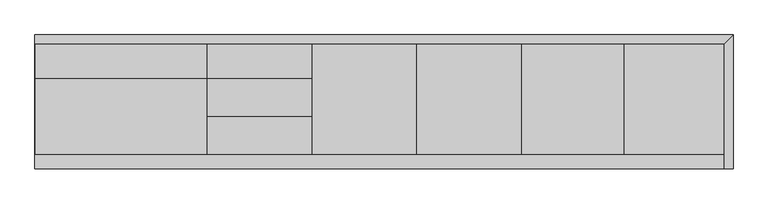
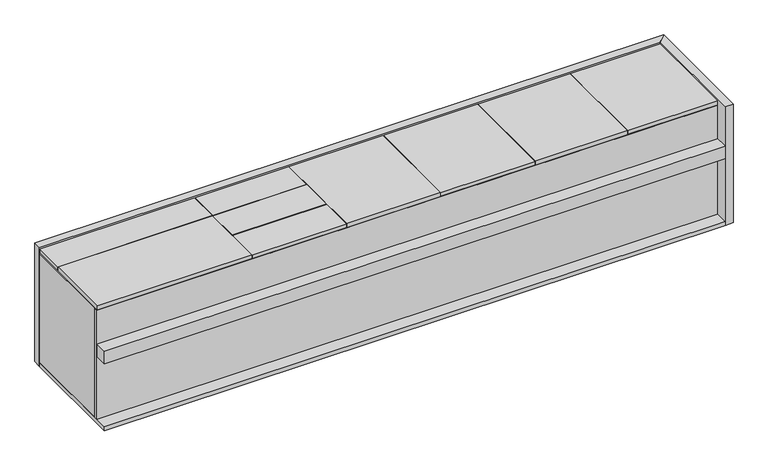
"""IFC4 building model written with IfcOpenShell, lengths in millimetres: proxy geometry, AERO^OFFICE 5_24x120 SIDE CREDENZA-PARTS SOLID."""

import ifcopenshell
import ifcopenshell.guid

model = None  # the IFC model being written
_history = None  # IfcOwnerHistory: only IFC2X3 demands one
_inside = {}  # id of a spatial element -> (the spatial element, [elements in it])
_under = {}  # id of a project, library or spatial element -> (it, [spatial elements below it])
_declared = {}  # id of a project -> (the project, [libraries it declares])
_typed = {}  # id of a type object -> (the type object, [elements of that type])
_made_of = {}  # id of a material, layer set ... -> (it, [elements and type objects made of it])


def new_model(schema):
    """Start an empty IFC model of exactly this schema.

    Asked for "IFC4X3", IfcOpenShell would pick the latest addendum, in which some entities
    have other attributes; the version numbers below select the first issue.
    IFC2X3 requires an IfcOwnerHistory on every rooted entity: one is made here for all.
    """
    global model, _history
    if schema == "IFC4X3":
        model = ifcopenshell.file(schema_version=(4, 3, 0, 0))
    else:
        model = ifcopenshell.file(schema=schema)
    _inside.clear()
    _under.clear()
    _declared.clear()
    _typed.clear()
    _made_of.clear()
    _history = None
    if model.schema == "IFC2X3":
        org = make("IfcOrganization", Name="unknown")
        user = make(
            "IfcPersonAndOrganization",
            ThePerson=make("IfcPerson", FamilyName="unknown"),
            TheOrganization=org,
        )
        app = make(
            "IfcApplication",
            ApplicationDeveloper=org,
            Version="unknown",
            ApplicationFullName="unknown",
            ApplicationIdentifier="unknown",
        )
        _history = make(
            "IfcOwnerHistory",
            OwningUser=user,
            OwningApplication=app,
            ChangeAction="ADDED",
            CreationDate=0,
        )
    return model


def make(cls, **values):
    """One entity of the class cls with the attributes given. An attribute that is None is left unset."""
    return model.create_entity(
        cls, **{name: value for name, value in values.items() if value is not None}
    )


def rooted(cls, **values):
    """An entity with a GlobalId (a new one), such as an element, a storey or a relation."""
    return make(cls, GlobalId=ifcopenshell.guid.new(), OwnerHistory=_history, **values)


def si_unit(unit_type, name, prefix=None):
    """IfcSIUnit, for example si_unit("LENGTHUNIT", "METRE", prefix="MILLI")."""
    return make("IfcSIUnit", UnitType=unit_type, Prefix=prefix, Name=name)


def assignment(units):
    """IfcUnitAssignment: the units of a project."""
    return None if units is None else make("IfcUnitAssignment", Units=units)


def point(xyz):
    """IfcCartesianPoint."""
    return None if xyz is None else make("IfcCartesianPoint", Coordinates=xyz)


def direction(xyz):
    """IfcDirection."""
    return None if xyz is None else make("IfcDirection", DirectionRatios=xyz)


def frame(location, z_axis=None, x_axis=None):
    """IfcAxis2Placement3D, a coordinate frame: its origin and axes. An axis left out is left unset."""
    return make(
        "IfcAxis2Placement3D",
        Location=point(location),
        Axis=direction(z_axis),
        RefDirection=direction(x_axis),
    )


def origin():
    """The frame at (0, 0, 0) with its axes left unset."""
    return frame((0.0, 0.0, 0.0))


def place(relative_to, where):
    """IfcLocalPlacement: puts the frame where relative to a parent placement (None: the world)."""
    return make(
        "IfcLocalPlacement", PlacementRelTo=relative_to, RelativePlacement=where
    )


def context(
    kind, dimensions, precision=None, world=None, true_north=None, identifier=None
):
    """IfcGeometricRepresentationContext, for example the 3D "Model" context."""
    return make(
        "IfcGeometricRepresentationContext",
        ContextIdentifier=identifier,
        ContextType=kind,
        CoordinateSpaceDimension=dimensions,
        Precision=precision,
        WorldCoordinateSystem=world,
        TrueNorth=true_north,
    )


def project(units=None, contexts=None):
    """IfcProject with its units and contexts."""
    return rooted(
        "IfcProject",
        Name="project",
        RepresentationContexts=contexts,
        UnitsInContext=assignment(units),
    )


def spatial(cls, under=None, at=None, **own):
    """A site, building, storey or space (cls), placed at a placement, below another one or the project."""
    s = rooted(cls, ObjectPlacement=at, **own)
    if under is not None:
        _under.setdefault(under.id(), (under, []))[1].append(s)
    return s


def polyline(points):
    """IfcPolyline through the points."""
    return make("IfcPolyline", Points=[point(p) for p in points])


def outline(outer, holes=None, kind="AREA"):
    """IfcArbitraryClosedProfileDef: a profile drawn as a closed curve; with holes, ...WithVoids."""
    if holes is None:
        return make("IfcArbitraryClosedProfileDef", ProfileType=kind, OuterCurve=outer)
    return make(
        "IfcArbitraryProfileDefWithVoids",
        ProfileType=kind,
        OuterCurve=outer,
        InnerCurves=holes,
    )


def extrude(swept, where, along, depth):
    """IfcExtrudedAreaSolid: the profile swept, set in the frame where, extruded along a direction by depth."""
    return make(
        "IfcExtrudedAreaSolid",
        SweptArea=swept,
        Position=where,
        ExtrudedDirection=direction(along),
        Depth=depth,
    )


def shape(context_of_items, identifier, shape_type, items):
    """IfcShapeRepresentation: the items that make up one representation, for example the "Body"."""
    return make(
        "IfcShapeRepresentation",
        ContextOfItems=context_of_items,
        RepresentationIdentifier=identifier,
        RepresentationType=shape_type,
        Items=items,
    )


def source(mapping_origin, context_of_items, identifier, shape_type, items):
    """IfcRepresentationMap: a shape defined once, which mapped items show again and again."""
    return make(
        "IfcRepresentationMap",
        MappingOrigin=mapping_origin,
        MappedRepresentation=shape(context_of_items, identifier, shape_type, items),
    )


def transform(
    local_origin,
    x_axis=None,
    y_axis=None,
    z_axis=None,
    scale=None,
    scale2=None,
    scale3=None,
    uniform=True,
):
    """IfcCartesianTransformationOperator3D, or its non-uniform kind. x_axis, y_axis, z_axis: its Axis1, 2, 3."""
    if uniform:
        return make(
            "IfcCartesianTransformationOperator3D",
            Axis1=direction(x_axis),
            Axis2=direction(y_axis),
            LocalOrigin=point(local_origin),
            Scale=scale,
            Axis3=direction(z_axis),
        )
    return make(
        "IfcCartesianTransformationOperator3DnonUniform",
        Axis1=direction(x_axis),
        Axis2=direction(y_axis),
        LocalOrigin=point(local_origin),
        Scale=scale,
        Axis3=direction(z_axis),
        Scale2=scale2,
        Scale3=scale3,
    )


def mapped(mapping_source, mapping_target):
    """IfcMappedItem: shows the shape of a source again, moved by a transform."""
    return make(
        "IfcMappedItem", MappingSource=mapping_source, MappingTarget=mapping_target
    )


def made_of(thing, what):
    """Note that an element or type object is made of a material, layer set ...; save() writes the relation."""
    if what is not None:
        _made_of.setdefault(what.id(), (what, []))[1].append(thing)
    return thing


def element(
    cls,
    number,
    at=None,
    inside=None,
    cuts=None,
    type_object=None,
    material=None,
    context=None,
    identifier="Body",
    shape_type=None,
    held_by="IfcProductDefinitionShape",
    body=None,
    shapes=None,
    **own,
):
    """One element of the class cls, such as IfcWall. Its Tag is "e" and its number.

    at: its placement. inside: the storey or other place that contains it. cuts: it is an
    opening in that element (IfcRelVoidsElement). A single representation is given by context,
    identifier, shape_type and body (its items); several are given by shapes. held_by: the class
    of the entity that holds the representations. save() writes the other relations.
    """
    e = rooted(cls, Tag="e%d" % number, ObjectPlacement=at, **own)
    if body is not None:
        shapes = [shape(context, identifier, shape_type, body)]
    if shapes is not None:
        e.Representation = make(held_by, Representations=shapes)
    if inside is not None:
        _inside.setdefault(inside.id(), (inside, []))[1].append(e)
    if cuts is not None:
        rooted(
            "IfcRelVoidsElement", RelatingBuildingElement=cuts, RelatedOpeningElement=e
        )
    if type_object is not None:
        _typed.setdefault(type_object.id(), (type_object, []))[1].append(e)
    return made_of(e, material)


def aggregate(whole, parts):
    """IfcRelAggregates: a whole, such as a stair, and the parts it consists of."""
    return rooted("IfcRelAggregates", RelatingObject=whole, RelatedObjects=parts)


def save(model, path):
    """Write the relations noted so far, then the file.

    IfcRelAggregates (storeys below a building ...), IfcRelContainedInSpatialStructure (elements
    in a storey), IfcRelDefinesByType, IfcRelAssociatesMaterial and IfcRelDeclares: one each for
    every whole, place, type object, material and project.
    """
    for whole, parts in _under.values():
        aggregate(whole, parts)
    for where, things in _inside.values():
        rooted(
            "IfcRelContainedInSpatialStructure",
            RelatedElements=things,
            RelatingStructure=where,
        )
    for kind, things in _typed.values():
        rooted("IfcRelDefinesByType", RelatedObjects=things, RelatingType=kind)
    for what, things in _made_of.values():
        rooted("IfcRelAssociatesMaterial", RelatedObjects=things, RelatingMaterial=what)
    for by, libraries in _declared.values():
        rooted("IfcRelDeclares", RelatingContext=by, RelatedDefinitions=libraries)
    model.write(path)


def generic_models_a2b163ed(model_context):
    return source(origin(), model_context, "Body", "SweptSolid", [
        extrude(outline(polyline([(0.0, -482.6), (0.0, -463.55), (3009.9, -463.55), (3009.9, -482.6), (0.0, -482.6)])), frame((0.0, 0.0, -590.55), z_axis=(0.0, 0.0, 1.0), x_axis=(1.0, 0.0, 0.0)), (0.0, 0.0, 1.0), 558.8),
        extrude(outline(polyline([(1208.0875, 9.525), (1208.0875, -150.01875), (753.26875, -150.01875), (753.26875, 9.525), (1208.0875, 9.525)])), frame((0.0, 0.0, -28.575), z_axis=(0.0, 0.0, 1.0), x_axis=(1.0, 0.0, 0.0)), (0.0, 0.0, 1.0), 19.05),
        extrude(outline(polyline([(0.0, -546.1), (0.0, 0.0), (3009.9, 0.0), (3009.9, -546.1), (0.0, -546.1)])), frame((0.0, 0.0, -609.6), z_axis=(0.0, 0.0, 1.0), x_axis=(1.0, 0.0, 0.0)), (0.0, 0.0, 1.0), 19.05),
        extrude(outline(polyline([(0.0, -482.6), (3009.9, -482.6), (3009.9, -546.1), (0.0, -546.1), (0.0, -482.6)])), frame((0.0, 0.0, -266.7), z_axis=(0.0, 0.0, 1.0), x_axis=(1.0, 0.0, 0.0)), (0.0, 0.0, 1.0), 63.5),
        extrude(outline(polyline([(750.8875, -152.4), (750.8875, -482.6), (2.38125, -482.6), (2.38125, -152.4), (750.8875, -152.4)])), frame((0.0, 0.0, -28.575), z_axis=(0.0, 0.0, 1.0), x_axis=(1.0, 0.0, 0.0)), (0.0, 0.0, 1.0), 19.05),
        extrude(outline(polyline([(2122.4875, 9.525), (2122.4875, -482.6), (1667.66875, -482.6), (1667.66875, 9.525), (2122.4875, 9.525)])), frame((0.0, 0.0, -28.575), z_axis=(0.0, 0.0, 1.0), x_axis=(1.0, 0.0, 0.0)), (0.0, 0.0, 1.0), 19.05),
        extrude(outline(polyline([(1665.2875, 9.525), (1665.2875, -482.6), (1210.46875, -482.6), (1210.46875, 9.525), (1665.2875, 9.525)])), frame((0.0, 0.0, -28.575), z_axis=(0.0, 0.0, 1.0), x_axis=(1.0, 0.0, 0.0)), (0.0, 0.0, 1.0), 19.05),
        extrude(outline(polyline([(1219.2, -463.55), (1200.15, -463.55), (1200.15, 0.0), (1219.2, 0.0), (1219.2, -463.55)])), frame((0.0, 0.0, -590.55), z_axis=(0.0, 0.0, 1.0), x_axis=(1.0, 0.0, 0.0)), (0.0, 0.0, 1.0), 558.8),
        extrude(outline(polyline([(750.8875, 9.525), (750.8875, -150.01875), (2.38125, -150.01875), (2.38125, 9.525), (750.8875, 9.525)])), frame((0.0, 0.0, -28.575), z_axis=(0.0, 0.0, 1.0), x_axis=(1.0, 0.0, 0.0)), (0.0, 0.0, 1.0), 19.05),
        extrude(outline(polyline([(762.0, -463.55), (742.95, -463.55), (742.95, 0.0), (762.0, 0.0), (762.0, -463.55)])), frame((0.0, 0.0, -590.55), z_axis=(0.0, 0.0, 1.0), x_axis=(1.0, 0.0, 0.0)), (0.0, 0.0, 1.0), 558.8),
        extrude(outline(polyline([(3048.0, 38.1), (3009.9, 0.0), (0.0, 0.0), (0.0, 38.1), (3048.0, 38.1)])), frame((0.0, 0.0, -609.6), z_axis=(0.0, 0.0, 1.0), x_axis=(1.0, 0.0, 0.0)), (0.0, 0.0, 1.0), 609.6),
        extrude(outline(polyline([(2573.3375, 9.525), (3019.425, 9.525), (3019.425, -482.6), (2573.3375, -482.6), (2573.3375, 9.525)])), frame((0.0, 0.0, -28.575), z_axis=(0.0, 0.0, 1.0), x_axis=(1.0, 0.0, 0.0)), (0.0, 0.0, 1.0), 19.05),
        extrude(outline(polyline([(3009.9, 0.0), (3048.0, 38.1), (3048.0, -546.1), (3009.9, -546.1), (3009.9, 0.0)])), frame((0.0, 0.0, -609.6), z_axis=(0.0, 0.0, 1.0), x_axis=(1.0, 0.0, 0.0)), (0.0, 0.0, 1.0), 609.6),
        extrude(outline(polyline([(2570.95625, 9.525), (2570.95625, -482.6), (2124.86875, -482.6), (2124.86875, 9.525), (2570.95625, 9.525)])), frame((0.0, 0.0, -28.575), z_axis=(0.0, 0.0, 1.0), x_axis=(1.0, 0.0, 0.0)), (0.0, 0.0, 1.0), 19.05),
        extrude(outline(polyline([(1208.0875, -482.6), (753.26875, -482.6), (753.26875, -318.690625), (1208.0875, -318.690625), (1208.0875, -482.6)])), frame((0.0, 0.0, -28.575), z_axis=(0.0, 0.0, 1.0), x_axis=(1.0, 0.0, 0.0)), (0.0, 0.0, 1.0), 19.05),
        extrude(outline(polyline([(19.05, -463.55), (0.0, -463.55), (0.0, 0.0), (19.05, 0.0), (19.05, -463.55)])), frame((0.0, 0.0, -590.55), z_axis=(0.0, 0.0, 1.0), x_axis=(1.0, 0.0, 0.0)), (0.0, 0.0, 1.0), 558.8),
        extrude(outline(polyline([(1208.0875, -152.4), (1208.0875, -316.309375), (753.26875, -316.309375), (753.26875, -152.4), (1208.0875, -152.4)])), frame((0.0, 0.0, -28.575), z_axis=(0.0, 0.0, 1.0), x_axis=(1.0, 0.0, 0.0)), (0.0, 0.0, 1.0), 19.05),
    ])


if __name__ == "__main__":
    model = new_model("IFC4")
    model_context = context("Model", 3, world=origin())
    ifc_project = project(units=[si_unit("LENGTHUNIT", "METRE", prefix="MILLI")], contexts=[model_context])
    site = spatial("IfcSite", under=ifc_project)
    building = spatial("IfcBuilding", under=site)
    placement = place(None, origin())
    generic_models_shape = generic_models_a2b163ed(model_context)
    element("IfcBuildingElementProxy", 1, Name="AERO^OFFICE 5_24x120 SIDE CREDENZA-PARTS SOLID", ObjectType="AERO^OFFICE 5_24x120 SIDE CREDENZA-PARTS SOLID", at=placement, inside=building, context=model_context, shape_type="MappedRepresentation", body=[
        mapped(generic_models_shape, transform((0.0, 0.0, 0.0), x_axis=(1.0, 0.0, 0.0), y_axis=(0.0, 1.0, 0.0), z_axis=(0.0, 0.0, 1.0))),
    ])
    save(model, "model.ifc")
